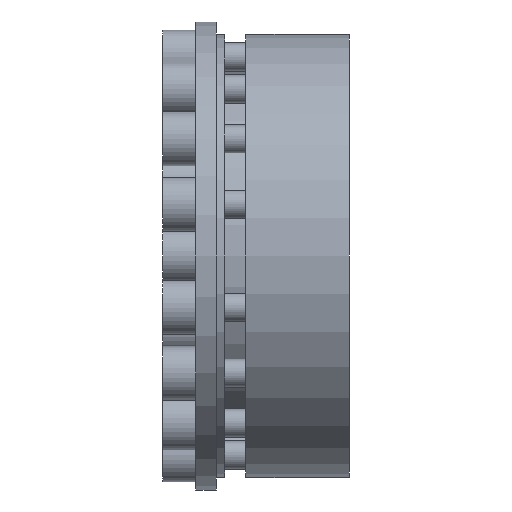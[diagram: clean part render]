
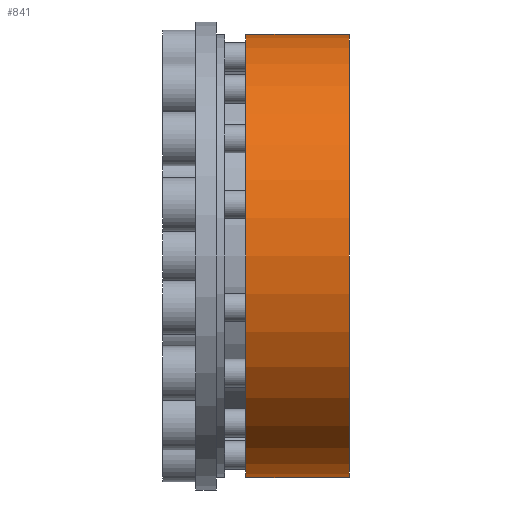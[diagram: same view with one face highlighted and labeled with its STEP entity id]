
A CAD part, front view. The second image highlights one B-rep face of the part: STEP entity #841.
In plain terms, the highlighted cylindrical face has radius 53.5 mm (diameter 107 mm), a partial arc.
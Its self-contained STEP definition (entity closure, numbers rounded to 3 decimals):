
#135 = VERTEX_POINT ( 'NONE', #3335 ) ;
#161 = VERTEX_POINT ( 'NONE', #3353 ) ;
#172 = EDGE_CURVE ( 'NONE', #161, #135, #3391, .T. ) ;
#218 = VERTEX_POINT ( 'NONE', #3496 ) ;
#246 = EDGE_CURVE ( 'NONE', #161, #8718, #3509, .T. ) ;
#820 = ORIENTED_EDGE ( 'NONE', *, *, #840, .F. ) ;
#840 = EDGE_CURVE ( 'NONE', #135, #218, #4522, .T. ) ;
#841 = ADVANCED_FACE ( 'NONE', ( #4517 ), #4516, .T. ) ;
#842 = EDGE_LOOP ( 'NONE', ( #8534, #8535, #8536, #820 ) ) ;
#3335 = CARTESIAN_POINT ( 'NONE',  ( 12.1, 0., -53.5 ) ) ;
#3353 = CARTESIAN_POINT ( 'NONE',  ( 37.1, 0., -53.5 ) ) ;
#3388 = DIRECTION ( 'NONE',  ( -1., 0., 0. ) ) ;
#3389 = VECTOR ( 'NONE', #3388, 1000. ) ;
#3390 = CARTESIAN_POINT ( 'NONE',  ( 0., 0., -53.5 ) ) ;
#3391 = LINE ( 'NONE', #3390, #3389 ) ;
#3496 = CARTESIAN_POINT ( 'NONE',  ( 12.1, 0., 53.5 ) ) ;
#3506 = DIRECTION ( 'NONE',  ( 0., 0., 1. ) ) ;
#3507 = DIRECTION ( 'NONE',  ( -1., 0., 0. ) ) ;
#3508 = AXIS2_PLACEMENT_3D ( 'NONE', #3514, #3507, #3506 ) ;
#3509 = CIRCLE ( 'NONE', #3508, 53.5 ) ;
#3514 = CARTESIAN_POINT ( 'NONE',  ( 37.1, 0., 0. ) ) ;
#4511 = DIRECTION ( 'NONE',  ( 0., 0., 1. ) ) ;
#4512 = DIRECTION ( 'NONE',  ( -1., 0., 0. ) ) ;
#4513 = CARTESIAN_POINT ( 'NONE',  ( 0., 0., 0. ) ) ;
#4514 = AXIS2_PLACEMENT_3D ( 'NONE', #4513, #4512, #4511 ) ;
#4516 = CYLINDRICAL_SURFACE ( 'NONE', #4514, 53.5 ) ;
#4517 = FACE_OUTER_BOUND ( 'NONE', #842, .T. ) ;
#4518 = DIRECTION ( 'NONE',  ( 0., 0., 1. ) ) ;
#4519 = DIRECTION ( 'NONE',  ( -1., 0., 0. ) ) ;
#4520 = CARTESIAN_POINT ( 'NONE',  ( 12.1, 0., 0. ) ) ;
#4521 = AXIS2_PLACEMENT_3D ( 'NONE', #4520, #4519, #4518 ) ;
#4522 = CIRCLE ( 'NONE', #4521, 53.5 ) ;
#8067 = DIRECTION ( 'NONE',  ( -1., 0., 0. ) ) ;
#8068 = VECTOR ( 'NONE', #8067, 1000. ) ;
#8069 = CARTESIAN_POINT ( 'NONE',  ( 0., 0., 53.5 ) ) ;
#8070 = LINE ( 'NONE', #8069, #8068 ) ;
#8423 = CARTESIAN_POINT ( 'NONE',  ( 37.1, 0., 53.5 ) ) ;
#8534 = ORIENTED_EDGE ( 'NONE', *, *, #172, .F. ) ;
#8535 = ORIENTED_EDGE ( 'NONE', *, *, #246, .T. ) ;
#8536 = ORIENTED_EDGE ( 'NONE', *, *, #8552, .T. ) ;
#8552 = EDGE_CURVE ( 'NONE', #8718, #218, #8070, .T. ) ;
#8718 = VERTEX_POINT ( 'NONE', #8423 ) ;
